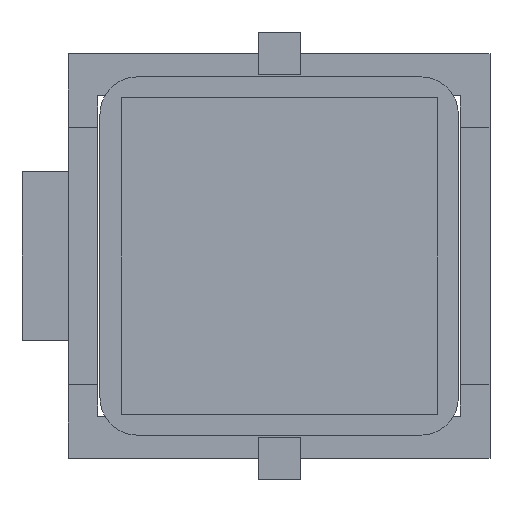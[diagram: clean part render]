
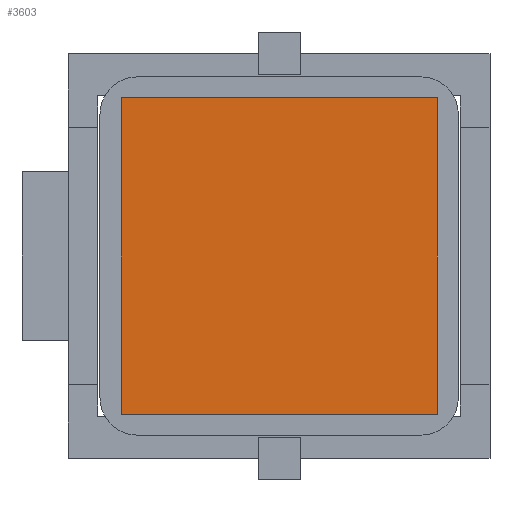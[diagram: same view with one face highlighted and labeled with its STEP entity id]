
A CAD part, front view. The second image highlights one B-rep face of the part: STEP entity #3603.
In plain terms, the highlighted planar face has unit normal (0, -1, 0).
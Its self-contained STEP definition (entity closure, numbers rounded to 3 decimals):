
#5 = DIRECTION ( 'NONE',  ( 0., 0., -1. ) ) ;
#187 = VECTOR ( 'NONE', #5, 1000. ) ;
#250 = DIRECTION ( 'NONE',  ( 0., 0., 1. ) ) ;
#361 = CARTESIAN_POINT ( 'NONE',  ( 11.587, -13.936, -0.275 ) ) ;
#597 = VERTEX_POINT ( 'NONE', #2885 ) ;
#627 = DIRECTION ( 'NONE',  ( 0., 0., 1. ) ) ;
#678 = EDGE_CURVE ( 'NONE', #2340, #3572, #1376, .T. ) ;
#709 = LINE ( 'NONE', #361, #187 ) ;
#985 = CARTESIAN_POINT ( 'NONE',  ( -3.413, -13.936, 14.725 ) ) ;
#1057 = ORIENTED_EDGE ( 'NONE', *, *, #3640, .F. ) ;
#1082 = DIRECTION ( 'NONE',  ( -1., 0., 0. ) ) ;
#1273 = CARTESIAN_POINT ( 'NONE',  ( -3.413, -13.936, -0.275 ) ) ;
#1322 = CARTESIAN_POINT ( 'NONE',  ( -3.413, -13.936, 14.725 ) ) ;
#1376 = LINE ( 'NONE', #2810, #1729 ) ;
#1561 = EDGE_CURVE ( 'NONE', #597, #2783, #4238, .T. ) ;
#1595 = EDGE_CURVE ( 'NONE', #3572, #597, #709, .T. ) ;
#1659 = DIRECTION ( 'NONE',  ( 0., 1., 0. ) ) ;
#1729 = VECTOR ( 'NONE', #3161, 1000. ) ;
#1951 = PLANE ( 'NONE',  #3607 ) ;
#2340 = VERTEX_POINT ( 'NONE', #985 ) ;
#2507 = CARTESIAN_POINT ( 'NONE',  ( -3.413, -13.936, -0.275 ) ) ;
#2723 = EDGE_LOOP ( 'NONE', ( #1057, #4281, #3066, #4438 ) ) ;
#2783 = VERTEX_POINT ( 'NONE', #3519 ) ;
#2808 = VECTOR ( 'NONE', #1082, 1000. ) ;
#2810 = CARTESIAN_POINT ( 'NONE',  ( -3.413, -13.936, 14.725 ) ) ;
#2885 = CARTESIAN_POINT ( 'NONE',  ( 11.587, -13.936, -0.275 ) ) ;
#3066 = ORIENTED_EDGE ( 'NONE', *, *, #1595, .F. ) ;
#3161 = DIRECTION ( 'NONE',  ( 1., 0., 0. ) ) ;
#3407 = LINE ( 'NONE', #1273, #4267 ) ;
#3519 = CARTESIAN_POINT ( 'NONE',  ( -3.413, -13.936, -0.275 ) ) ;
#3572 = VERTEX_POINT ( 'NONE', #3658 ) ;
#3603 = ADVANCED_FACE ( 'NONE', ( #4052 ), #1951, .F. ) ;
#3607 = AXIS2_PLACEMENT_3D ( 'NONE', #1322, #1659, #250 ) ;
#3640 = EDGE_CURVE ( 'NONE', #2783, #2340, #3407, .T. ) ;
#3658 = CARTESIAN_POINT ( 'NONE',  ( 11.587, -13.936, 14.725 ) ) ;
#4052 = FACE_OUTER_BOUND ( 'NONE', #2723, .T. ) ;
#4238 = LINE ( 'NONE', #2507, #2808 ) ;
#4267 = VECTOR ( 'NONE', #627, 1000. ) ;
#4281 = ORIENTED_EDGE ( 'NONE', *, *, #1561, .F. ) ;
#4438 = ORIENTED_EDGE ( 'NONE', *, *, #678, .F. ) ;
